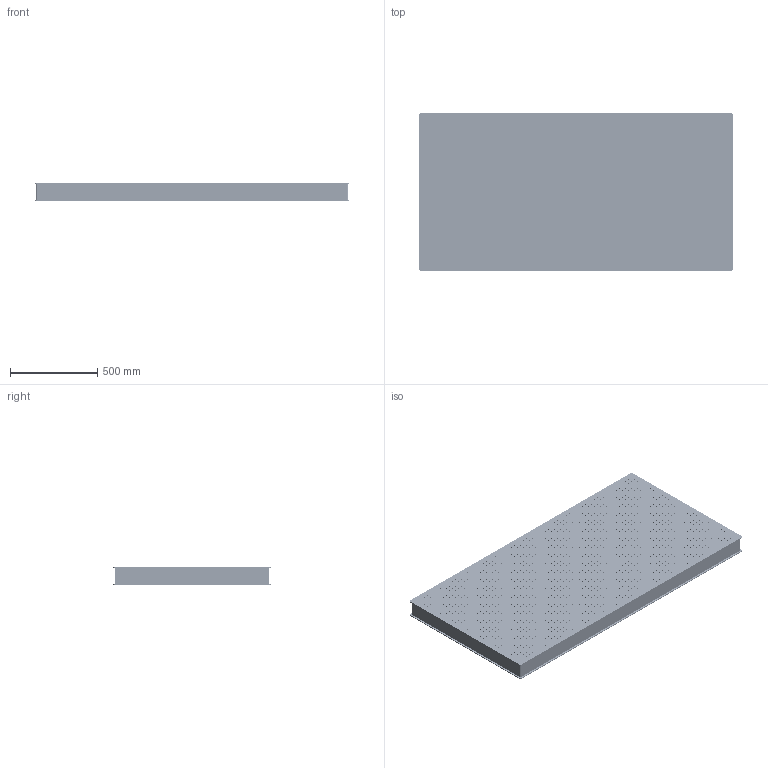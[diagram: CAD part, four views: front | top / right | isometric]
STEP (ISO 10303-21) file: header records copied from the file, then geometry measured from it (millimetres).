
FILE_DESCRIPTION (( 'STEP AP203' ), '1' );
FILE_NAME ('OTBB918-100 怢醱.STEP', '2019-05-09T08:56:16', ( 'User' ), ( 'User' ), 'SwSTEP 2.0', 'SolidWorks 2016', '' );
FILE_SCHEMA (( 'CONFIG_CONTROL_DESIGN' ));
Length unit declared in the file: millimetre
Products named in the file (1): OTBB918-100 怢醱
Bounding box: 1800 x 900 x 100 mm (x, y, z)
Surface area: 7178394.7 mm2 (no closed solid volume)
Topology: 0 solids, 30 shells, 4738 faces, 14606 edges, 9900 vertices
Faces by surface type: cylinder 4684, plane 54
Entity records: 178600 total; most frequent: DIRECTION 33628, CARTESIAN_POINT 29245, ORIENTED_EDGE 28688, EDGE_CURVE 14606, AXIS2_PLACEMENT_3D 14283, VERTEX_POINT 9900, CIRCLE 9544, EDGE_LOOP 9498
